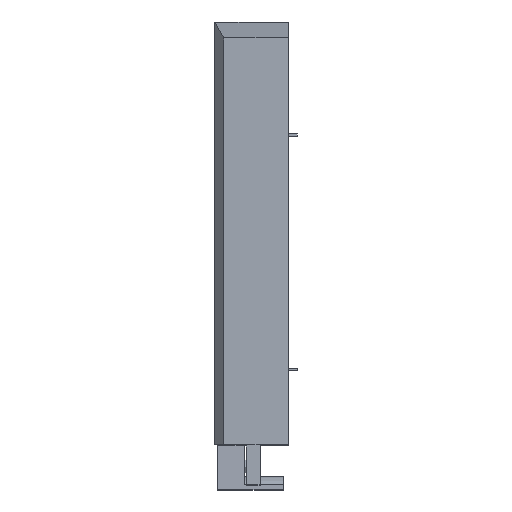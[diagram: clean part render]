
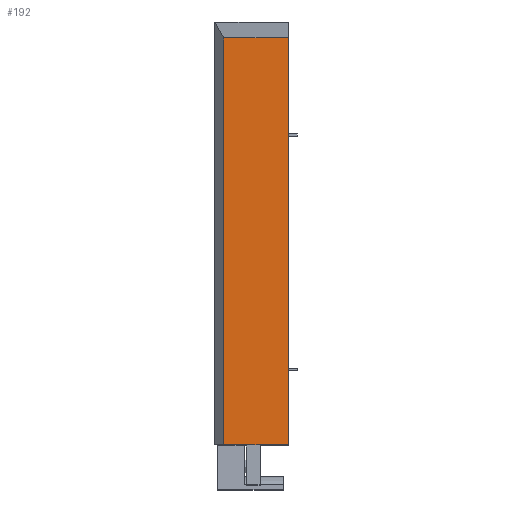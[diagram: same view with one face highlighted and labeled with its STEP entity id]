
A CAD part, top view. The second image highlights one B-rep face of the part: STEP entity #192.
In plain terms, the highlighted planar face has unit normal (0, 0, 1).
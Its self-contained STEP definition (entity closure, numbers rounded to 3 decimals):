
#159 = VECTOR ( 'NONE', #2326, 1000. ) ;
#166 = VECTOR ( 'NONE', #709, 1000. ) ;
#192 = ADVANCED_FACE ( 'NONE', ( #437 ), #1773, .F. ) ;
#231 = AXIS2_PLACEMENT_3D ( 'NONE', #2083, #3807, #741 ) ;
#388 = CARTESIAN_POINT ( 'NONE',  ( -40.35, 213.029, 23.136 ) ) ;
#437 = FACE_OUTER_BOUND ( 'NONE', #4186, .T. ) ;
#497 = ORIENTED_EDGE ( 'NONE', *, *, #1256, .F. ) ;
#709 = DIRECTION ( 'NONE',  ( 1., 0., 0. ) ) ;
#723 = CARTESIAN_POINT ( 'NONE',  ( -40.35, -9.2, 23.136 ) ) ;
#741 = DIRECTION ( 'NONE',  ( 0., 1., 0. ) ) ;
#810 = CARTESIAN_POINT ( 'NONE',  ( 0., -9.2, 23.136 ) ) ;
#937 = DIRECTION ( 'NONE',  ( 0., -1., 0. ) ) ;
#982 = LINE ( 'NONE', #723, #159 ) ;
#1030 = EDGE_CURVE ( 'NONE', #2753, #1147, #982, .T. ) ;
#1147 = VERTEX_POINT ( 'NONE', #810 ) ;
#1256 = EDGE_CURVE ( 'NONE', #2644, #1147, #2282, .T. ) ;
#1332 = ORIENTED_EDGE ( 'NONE', *, *, #1539, .F. ) ;
#1529 = VERTEX_POINT ( 'NONE', #1885 ) ;
#1539 = EDGE_CURVE ( 'NONE', #1529, #2644, #4185, .T. ) ;
#1632 = LINE ( 'NONE', #2967, #2284 ) ;
#1773 = PLANE ( 'NONE',  #231 ) ;
#1814 = ORIENTED_EDGE ( 'NONE', *, *, #3614, .F. ) ;
#1885 = CARTESIAN_POINT ( 'NONE',  ( -35.35, 213.029, 23.136 ) ) ;
#2083 = CARTESIAN_POINT ( 'NONE',  ( -40.35, 0., 23.136 ) ) ;
#2259 = CARTESIAN_POINT ( 'NONE',  ( 0., 0., 23.136 ) ) ;
#2282 = LINE ( 'NONE', #2259, #3359 ) ;
#2284 = VECTOR ( 'NONE', #4273, 1000. ) ;
#2326 = DIRECTION ( 'NONE',  ( 1., 0., 0. ) ) ;
#2450 = CARTESIAN_POINT ( 'NONE',  ( 0., 213.029, 23.136 ) ) ;
#2496 = CARTESIAN_POINT ( 'NONE',  ( -35.35, -9.2, 23.136 ) ) ;
#2644 = VERTEX_POINT ( 'NONE', #2450 ) ;
#2753 = VERTEX_POINT ( 'NONE', #2496 ) ;
#2967 = CARTESIAN_POINT ( 'NONE',  ( -35.35, 213.029, 23.136 ) ) ;
#3359 = VECTOR ( 'NONE', #937, 1000. ) ;
#3614 = EDGE_CURVE ( 'NONE', #2753, #1529, #1632, .T. ) ;
#3807 = DIRECTION ( 'NONE',  ( 0., 0., -1. ) ) ;
#3956 = ORIENTED_EDGE ( 'NONE', *, *, #1030, .T. ) ;
#4185 = LINE ( 'NONE', #388, #166 ) ;
#4186 = EDGE_LOOP ( 'NONE', ( #3956, #497, #1332, #1814 ) ) ;
#4273 = DIRECTION ( 'NONE',  ( 0., 1., 0. ) ) ;
